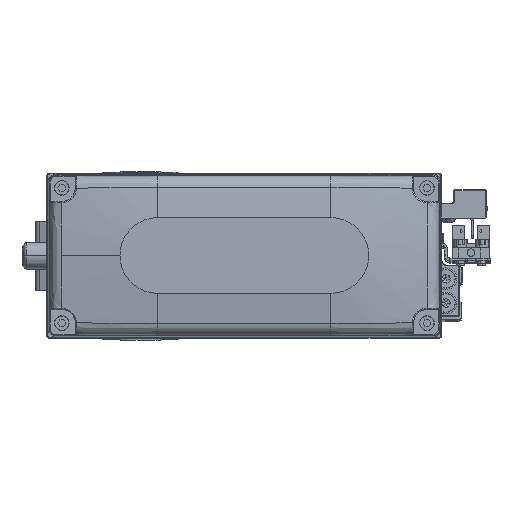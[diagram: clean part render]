
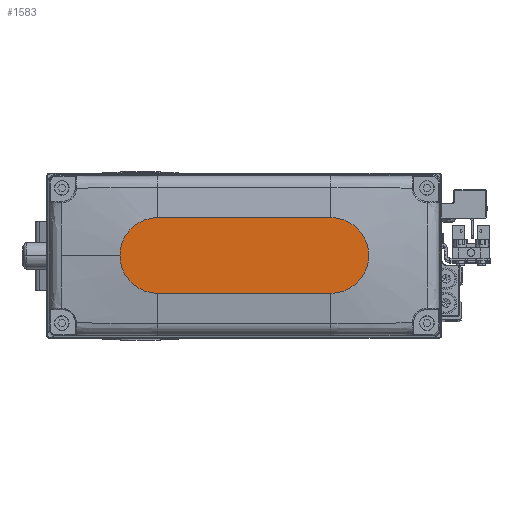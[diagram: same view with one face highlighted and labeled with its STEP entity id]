
A CAD part, top view. The second image highlights one B-rep face of the part: STEP entity #1583.
In plain terms, the highlighted planar face has unit normal (0, 0, 1).
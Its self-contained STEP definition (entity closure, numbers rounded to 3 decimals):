
#1336 = DIRECTION ( 'NONE',  ( -1., 0., 0. ) ) ;
#1583 = ADVANCED_FACE ( 'NONE', ( #34499 ), #2965, .T. ) ;
#1684 = AXIS2_PLACEMENT_3D ( 'NONE', #19308, #33337, #1821 ) ;
#1821 = DIRECTION ( 'NONE',  ( 1., 0., 0. ) ) ;
#1835 = EDGE_CURVE ( 'NONE', #23143, #40424, #18835, .T. ) ;
#1919 = DIRECTION ( 'NONE',  ( 0., 0., 1. ) ) ;
#2736 = AXIS2_PLACEMENT_3D ( 'NONE', #33436, #1919, #15981 ) ;
#2965 = PLANE ( 'NONE',  #25135 ) ;
#3455 = CARTESIAN_POINT ( 'NONE',  ( -32., -14., 35. ) ) ;
#5787 = CARTESIAN_POINT ( 'NONE',  ( 32., 14., 35. ) ) ;
#8878 = VERTEX_POINT ( 'NONE', #13199 ) ;
#9405 = CARTESIAN_POINT ( 'NONE',  ( 32., -14., 35. ) ) ;
#10591 = CIRCLE ( 'NONE', #36306, 14. ) ;
#11670 = DIRECTION ( 'NONE',  ( 0., 0., 1. ) ) ;
#12945 = LINE ( 'NONE', #26976, #27767 ) ;
#13199 = CARTESIAN_POINT ( 'NONE',  ( 46., 0., 35. ) ) ;
#13766 = ORIENTED_EDGE ( 'NONE', *, *, #26282, .T. ) ;
#14124 = EDGE_CURVE ( 'NONE', #8878, #23143, #22574, .T. ) ;
#15981 = DIRECTION ( 'NONE',  ( 1., 0., 0. ) ) ;
#16056 = CARTESIAN_POINT ( 'NONE',  ( -32., 14., 35. ) ) ;
#16866 = ORIENTED_EDGE ( 'NONE', *, *, #1835, .T. ) ;
#17018 = CARTESIAN_POINT ( 'NONE',  ( 0., 0., 35. ) ) ;
#18835 = LINE ( 'NONE', #32858, #25891 ) ;
#19055 = EDGE_LOOP ( 'NONE', ( #16866, #13766, #33613, #34873, #34506 ) ) ;
#19308 = CARTESIAN_POINT ( 'NONE',  ( 32., 0., 35. ) ) ;
#21528 = CIRCLE ( 'NONE', #1684, 14. ) ;
#22574 = CIRCLE ( 'NONE', #2736, 14. ) ;
#23143 = VERTEX_POINT ( 'NONE', #5787 ) ;
#24747 = VERTEX_POINT ( 'NONE', #9405 ) ;
#25135 = AXIS2_PLACEMENT_3D ( 'NONE', #17018, #31029, #45078 ) ;
#25688 = DIRECTION ( 'NONE',  ( 1., 0., 0. ) ) ;
#25891 = VECTOR ( 'NONE', #1336, 1000. ) ;
#26282 = EDGE_CURVE ( 'NONE', #40424, #39052, #10591, .T. ) ;
#26976 = CARTESIAN_POINT ( 'NONE',  ( -32., -14., 35. ) ) ;
#27767 = VECTOR ( 'NONE', #41014, 1000. ) ;
#31029 = DIRECTION ( 'NONE',  ( 0., 0., 1. ) ) ;
#32858 = CARTESIAN_POINT ( 'NONE',  ( -32., 14., 35. ) ) ;
#33337 = DIRECTION ( 'NONE',  ( 0., 0., 1. ) ) ;
#33436 = CARTESIAN_POINT ( 'NONE',  ( 32., 0., 35. ) ) ;
#33613 = ORIENTED_EDGE ( 'NONE', *, *, #42463, .T. ) ;
#33853 = EDGE_CURVE ( 'NONE', #24747, #8878, #21528, .T. ) ;
#34499 = FACE_OUTER_BOUND ( 'NONE', #19055, .T. ) ;
#34506 = ORIENTED_EDGE ( 'NONE', *, *, #14124, .T. ) ;
#34873 = ORIENTED_EDGE ( 'NONE', *, *, #33853, .T. ) ;
#36306 = AXIS2_PLACEMENT_3D ( 'NONE', #43194, #11670, #25688 ) ;
#39052 = VERTEX_POINT ( 'NONE', #3455 ) ;
#40424 = VERTEX_POINT ( 'NONE', #16056 ) ;
#41014 = DIRECTION ( 'NONE',  ( 1., 0., 0. ) ) ;
#42463 = EDGE_CURVE ( 'NONE', #39052, #24747, #12945, .T. ) ;
#43194 = CARTESIAN_POINT ( 'NONE',  ( -32., 0., 35. ) ) ;
#45078 = DIRECTION ( 'NONE',  ( 1., 0., 0. ) ) ;
